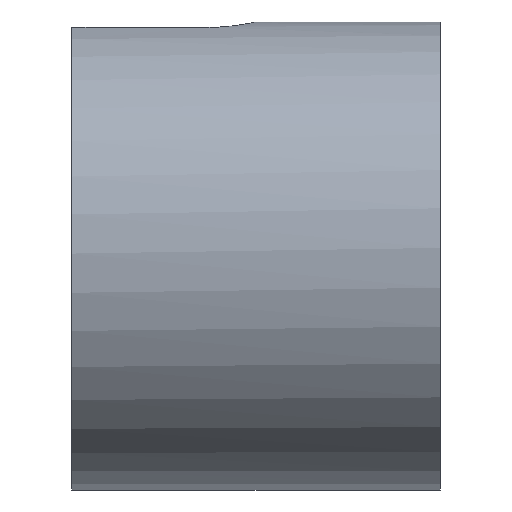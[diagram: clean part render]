
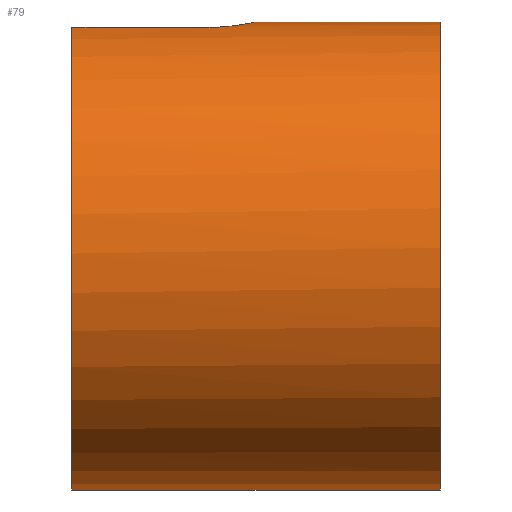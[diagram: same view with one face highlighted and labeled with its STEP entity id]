
A CAD part, front view. The second image highlights one B-rep face of the part: STEP entity #79.
In plain terms, the highlighted cylindrical face has radius 14 mm (diameter 28 mm), a partial arc.
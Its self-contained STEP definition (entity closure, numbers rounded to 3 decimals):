
#79 = ADVANCED_FACE( '', ( #94 ), #95, .T. );
#94 = FACE_OUTER_BOUND( '', #114, .T. );
#95 = CYLINDRICAL_SURFACE( '', #115, 14. );
#114 = EDGE_LOOP( '', ( #158, #159, #160, #161, #162, #163, #164, #165 ) );
#115 = AXIS2_PLACEMENT_3D( '', #166, #167, #168 );
#158 = ORIENTED_EDGE( '', *, *, #220, .F. );
#159 = ORIENTED_EDGE( '', *, *, #219, .T. );
#160 = ORIENTED_EDGE( '', *, *, #215, .F. );
#161 = ORIENTED_EDGE( '', *, *, #221, .F. );
#162 = ORIENTED_EDGE( '', *, *, #222, .T. );
#163 = ORIENTED_EDGE( '', *, *, #223, .T. );
#164 = ORIENTED_EDGE( '', *, *, #224, .T. );
#165 = ORIENTED_EDGE( '', *, *, #205, .F. );
#166 = CARTESIAN_POINT( '', ( -60., 0., 0. ) );
#167 = DIRECTION( '', ( 1., 0., 0. ) );
#168 = DIRECTION( '', ( 0., 0., 1. ) );
#205 = EDGE_CURVE( '', #228, #231, #232, .T. );
#215 = EDGE_CURVE( '', #249, #250, #251, .F. );
#219 = EDGE_CURVE( '', #254, #250, #256, .T. );
#220 = EDGE_CURVE( '', #254, #228, #257, .T. );
#221 = EDGE_CURVE( '', #258, #249, #259, .T. );
#222 = EDGE_CURVE( '', #258, #260, #261, .F. );
#223 = EDGE_CURVE( '', #260, #262, #263, .T. );
#224 = EDGE_CURVE( '', #262, #231, #264, .T. );
#228 = VERTEX_POINT( '', #268 );
#231 = VERTEX_POINT( '', #272 );
#232 = CIRCLE( '', #273, 14. );
#249 = VERTEX_POINT( '', #346 );
#250 = VERTEX_POINT( '', #347 );
#251 = LINE( '', #348, #349 );
#254 = VERTEX_POINT( '', #354 );
#256 = CIRCLE( '', #357, 14. );
#257 = LINE( '', #358, #359 );
#258 = VERTEX_POINT( '', #360 );
#259 = CIRCLE( '', #361, 14. );
#260 = VERTEX_POINT( '', #362 );
#261 = LINE( '', #363, #364 );
#262 = VERTEX_POINT( '', #365 );
#263 = B_SPLINE_CURVE_WITH_KNOTS( '', 3, ( #366, #367, #368, #369, #370, #371, #372, #373, #374, #375, #376, #377, #378, #379, #380, #381, #382, #383, #384, #385, #386, #387, #388, #389, #390, #391, #392, #393, #394, #395, #396, #397, #398, #399 ), .UNSPECIFIED., .F., .F., ( 4, 2, 2, 2, 2, 2, 2, 2, 2, 2, 2, 2, 2, 2, 2, 2, 4 ), ( 0., 0.001, 0.001, 0.002, 0.002, 0.003, 0.004, 0.004, 0.005, 0.005, 0.006, 0.006, 0.007, 0.008, 0.008, 0.009, 0.009 ), .UNSPECIFIED. );
#264 = LINE( '', #400, #401 );
#268 = CARTESIAN_POINT( '', ( -22., -1., -13.964 ) );
#272 = CARTESIAN_POINT( '', ( -22., -3., 13.675 ) );
#273 = AXIS2_PLACEMENT_3D( '', #409, #410, #411 );
#346 = CARTESIAN_POINT( '', ( -22., 1., -13.964 ) );
#347 = CARTESIAN_POINT( '', ( 0., 1., -13.964 ) );
#348 = CARTESIAN_POINT( '', ( -60., 1., -13.964 ) );
#349 = VECTOR( '', #422, 1000. );
#354 = CARTESIAN_POINT( '', ( 0., -1., -13.964 ) );
#357 = AXIS2_PLACEMENT_3D( '', #426, #427, #428 );
#358 = CARTESIAN_POINT( '', ( -60., -1., -13.964 ) );
#359 = VECTOR( '', #429, 1000. );
#360 = CARTESIAN_POINT( '', ( -22., 3., 13.675 ) );
#361 = AXIS2_PLACEMENT_3D( '', #430, #431, #432 );
#362 = CARTESIAN_POINT( '', ( -14., 3., 13.675 ) );
#363 = CARTESIAN_POINT( '', ( -60., 3., 13.675 ) );
#364 = VECTOR( '', #433, 1000. );
#365 = CARTESIAN_POINT( '', ( -14., -3., 13.675 ) );
#366 = CARTESIAN_POINT( '', ( -14., 3., 13.675 ) );
#367 = CARTESIAN_POINT( '', ( -13.801, 3., 13.675 ) );
#368 = CARTESIAN_POINT( '', ( -13.606, 2.98, 13.679 ) );
#369 = CARTESIAN_POINT( '', ( -13.222, 2.904, 13.696 ) );
#370 = CARTESIAN_POINT( '', ( -13.031, 2.846, 13.708 ) );
#371 = CARTESIAN_POINT( '', ( -12.668, 2.695, 13.738 ) );
#372 = CARTESIAN_POINT( '', ( -12.496, 2.603, 13.756 ) );
#373 = CARTESIAN_POINT( '', ( -12.17, 2.385, 13.796 ) );
#374 = CARTESIAN_POINT( '', ( -12.017, 2.259, 13.817 ) );
#375 = CARTESIAN_POINT( '', ( -11.741, 1.983, 13.859 ) );
#376 = CARTESIAN_POINT( '', ( -11.617, 1.833, 13.88 ) );
#377 = CARTESIAN_POINT( '', ( -11.397, 1.505, 13.92 ) );
#378 = CARTESIAN_POINT( '', ( -11.305, 1.331, 13.938 ) );
#379 = CARTESIAN_POINT( '', ( -11.155, 0.971, 13.967 ) );
#380 = CARTESIAN_POINT( '', ( -11.097, 0.781, 13.98 ) );
#381 = CARTESIAN_POINT( '', ( -11.019, 0.394, 13.996 ) );
#382 = CARTESIAN_POINT( '', ( -11., 0.199, 14. ) );
#383 = CARTESIAN_POINT( '', ( -11., -0.194, 14. ) );
#384 = CARTESIAN_POINT( '', ( -11.019, -0.393, 13.996 ) );
#385 = CARTESIAN_POINT( '', ( -11.096, -0.778, 13.98 ) );
#386 = CARTESIAN_POINT( '', ( -11.153, -0.966, 13.968 ) );
#387 = CARTESIAN_POINT( '', ( -11.304, -1.33, 13.938 ) );
#388 = CARTESIAN_POINT( '', ( -11.397, -1.504, 13.92 ) );
#389 = CARTESIAN_POINT( '', ( -11.614, -1.829, 13.881 ) );
#390 = CARTESIAN_POINT( '', ( -11.738, -1.981, 13.86 ) );
#391 = CARTESIAN_POINT( '', ( -12.017, -2.26, 13.817 ) );
#392 = CARTESIAN_POINT( '', ( -12.168, -2.383, 13.796 ) );
#393 = CARTESIAN_POINT( '', ( -12.492, -2.601, 13.757 ) );
#394 = CARTESIAN_POINT( '', ( -12.667, -2.695, 13.738 ) );
#395 = CARTESIAN_POINT( '', ( -13.03, -2.846, 13.708 ) );
#396 = CARTESIAN_POINT( '', ( -13.217, -2.903, 13.696 ) );
#397 = CARTESIAN_POINT( '', ( -13.602, -2.98, 13.679 ) );
#398 = CARTESIAN_POINT( '', ( -13.801, -3., 13.675 ) );
#399 = CARTESIAN_POINT( '', ( -14., -3., 13.675 ) );
#400 = CARTESIAN_POINT( '', ( -60., -3., 13.675 ) );
#401 = VECTOR( '', #434, 1000. );
#409 = CARTESIAN_POINT( '', ( -22., 0., 0. ) );
#410 = DIRECTION( '', ( -1., 0., 0. ) );
#411 = DIRECTION( '', ( 0., 0., 1. ) );
#422 = DIRECTION( '', ( -1., 0., 0. ) );
#426 = CARTESIAN_POINT( '', ( 0., 0., 0. ) );
#427 = DIRECTION( '', ( -1., 0., 0. ) );
#428 = DIRECTION( '', ( 0., 0., 1. ) );
#429 = DIRECTION( '', ( -1., 0., 0. ) );
#430 = CARTESIAN_POINT( '', ( -22., 0., 0. ) );
#431 = DIRECTION( '', ( -1., 0., 0. ) );
#432 = DIRECTION( '', ( 0., 0., 1. ) );
#433 = DIRECTION( '', ( -1., 0., 0. ) );
#434 = DIRECTION( '', ( -1., 0., 0. ) );
